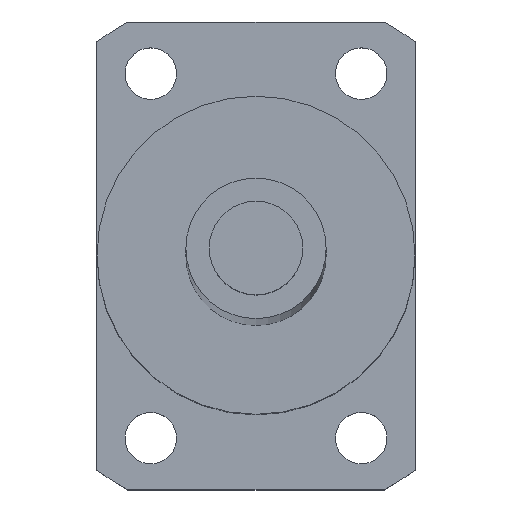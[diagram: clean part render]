
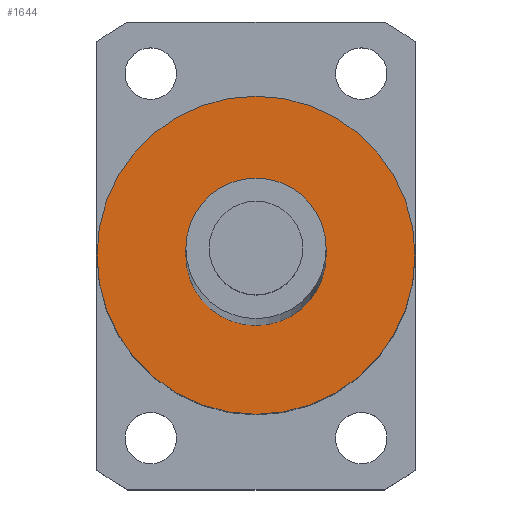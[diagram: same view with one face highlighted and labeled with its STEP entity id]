
A CAD part, top view. The second image highlights one B-rep face of the part: STEP entity #1644.
In plain terms, the highlighted planar face has unit normal (0, 0, 1).
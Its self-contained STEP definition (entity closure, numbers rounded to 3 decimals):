
#512=CARTESIAN_POINT('',(0.,0.,532.5));
#513=DIRECTION('',(0.,0.,1.));
#514=DIRECTION('',(1.,0.,0.));
#515=AXIS2_PLACEMENT_3D('',#512,#513,#514);
#517=CARTESIAN_POINT('',(0.,0.,532.5));
#518=DIRECTION('',(0.,0.,1.));
#519=DIRECTION('',(-1.,0.,0.));
#520=AXIS2_PLACEMENT_3D('',#517,#518,#519);
#522=CARTESIAN_POINT('',(0.,0.,532.5));
#523=DIRECTION('',(0.,0.,1.));
#524=DIRECTION('',(1.,0.,0.));
#525=AXIS2_PLACEMENT_3D('',#522,#523,#524);
#527=CARTESIAN_POINT('',(0.,0.,532.5));
#528=DIRECTION('',(0.,0.,1.));
#529=DIRECTION('',(-1.,0.,0.));
#530=AXIS2_PLACEMENT_3D('',#527,#528,#529);
#757=CARTESIAN_POINT('',(17.,0.,532.5));
#758=CARTESIAN_POINT('',(-17.,0.,532.5));
#759=VERTEX_POINT('',#757);
#760=VERTEX_POINT('',#758);
#769=CARTESIAN_POINT('',(7.5,0.,532.5));
#770=CARTESIAN_POINT('',(-7.5,0.,532.5));
#771=VERTEX_POINT('',#769);
#772=VERTEX_POINT('',#770);
#1629=CARTESIAN_POINT('',(0.,0.,532.5));
#1630=DIRECTION('',(0.,0.,1.));
#1631=DIRECTION('',(1.,0.,0.));
#1632=AXIS2_PLACEMENT_3D('',#1629,#1630,#1631);
#1633=PLANE('',#1632);
#1634=ORIENTED_EDGE('',*,*,#1609,.F.);
#1635=ORIENTED_EDGE('',*,*,#1623,.F.);
#1636=EDGE_LOOP('',(#1634,#1635));
#1637=FACE_OUTER_BOUND('',#1636,.F.);
#1639=ORIENTED_EDGE('',*,*,#1638,.T.);
#1641=ORIENTED_EDGE('',*,*,#1640,.T.);
#1642=EDGE_LOOP('',(#1639,#1641));
#1643=FACE_BOUND('',#1642,.F.);
#1644=ADVANCED_FACE('',(#1637,#1643),#1633,.T.);
#516=CIRCLE('',#515,17.);
#521=CIRCLE('',#520,17.);
#526=CIRCLE('',#525,7.5);
#531=CIRCLE('',#530,7.5);
#1609=EDGE_CURVE('',#759,#760,#516,.T.);
#1623=EDGE_CURVE('',#760,#759,#521,.T.);
#1638=EDGE_CURVE('',#771,#772,#526,.T.);
#1640=EDGE_CURVE('',#772,#771,#531,.T.);
